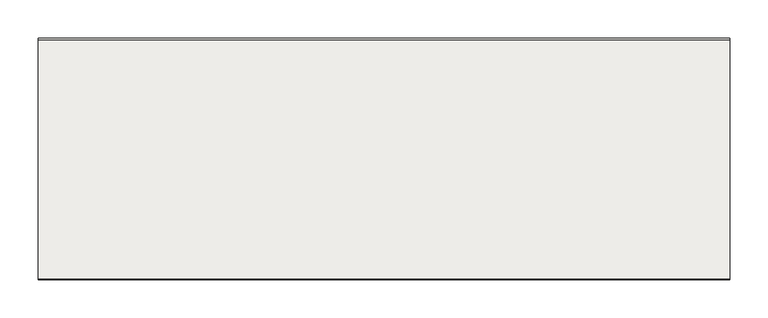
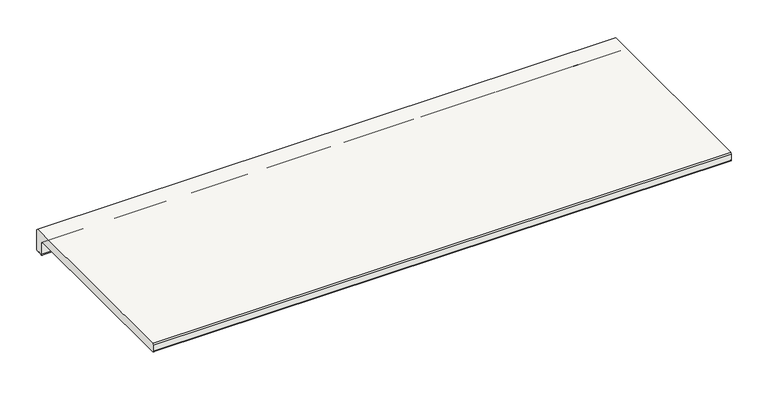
"""IFC4 building model written with IfcOpenShell, lengths in millimetres: slab geometry, ROSA GRES_L62 : Pieza L62_Tresor_Java_Anti-Slip."""

from ifc_helpers import new_model, si_unit, point, frame, frame_2d, origin, place, context, project, spatial, polyline, circle_curve, trimmed, segment, composite_curve, outline, extrude, source, transform, mapped, element, save


def slab_412796ce(model_context):
    return source(origin(), model_context, "Body", "SweptSolid", [
        extrude(outline(composite_curve([segment(trimmed(circle_curve(frame_2d((-12.1001991, -35.1001991)), 1.8998009), [point((-12.1001991, -37.0))], [point((-14.0, -35.1001991))], False, "CARTESIAN"), True, "CONTINUOUS"), segment(polyline([(-14.0, -35.1001991), (-14.0, -16.5836242)]), True, "CONTINUOUS"), segment(trimmed(circle_curve(frame_2d((-16.6422322, -16.5836242)), 2.6422322), [point((-14.0, -16.5836242))], [point((-16.6422322, -13.9413919))], True, "CARTESIAN"), True, "CONTINUOUS"), segment(polyline([(-16.6422322, -13.9413919), (-315.5234432, -13.9413919)]), True, "CONTINUOUS"), segment(trimmed(circle_curve(frame_2d((-315.5234432, -12.4648352)), 1.4765568), [point((-315.5234432, -13.9413919))], [point((-317.0, -12.4648352))], False, "CARTESIAN"), True, "CONTINUOUS"), segment(polyline([(-317.0, -12.4648352), (-317.0, -2.5), (-315.5, 0.0), (-2.5, 0.0), (0.0, -2.5), (0.0, -34.5)]), True, "CONTINUOUS"), segment(trimmed(circle_curve(frame_2d((-2.5, -34.5)), 2.5), [point((0.0, -34.5))], [point((-2.5, -37.0))], False, "CARTESIAN"), True, "CONTINUOUS"), segment(polyline([(-2.5, -37.0), (-5.422949, -37.0)]), True, "CONTINUOUS"), segment(trimmed(circle_curve(frame_2d((-7.4142134, -37.0)), 1.9912643), [point((-5.422949, -37.0))], [point((-9.4054777, -37.0))], True, "CARTESIAN"), True, "CONTINUOUS"), segment(polyline([(-9.4054777, -37.0), (-12.1001991, -37.0)]), True, "CONTINUOUS")], self_intersect=False)), frame((0.0, 0.0, 0.0), z_axis=(1.0, 0.0, 0.0), x_axis=(0.0, 1.0, 0.0)), (0.0, 0.0, 1.0), 907.5),
    ])


if __name__ == "__main__":
    model = new_model("IFC4")
    model_context = context("Model", 3, world=origin())
    ifc_project = project(units=[si_unit("LENGTHUNIT", "METRE", prefix="MILLI")], contexts=[model_context])
    site = spatial("IfcSite", under=ifc_project)
    building = spatial("IfcBuilding", under=site)
    placement = place(None, origin())
    slab_shape = slab_412796ce(model_context)
    element("IfcSlab", 1, ObjectType="ROSA GRES_L62 : Pieza L62_Tresor_Java_Anti-Slip", at=placement, inside=building, context=model_context, shape_type="MappedRepresentation", body=[
        mapped(slab_shape, transform((0.0, 0.0, 0.0), x_axis=(1.0, 0.0, 0.0), y_axis=(0.0, 1.0, 0.0), z_axis=(0.0, 0.0, 1.0))),
    ])
    save(model, "model.ifc")
